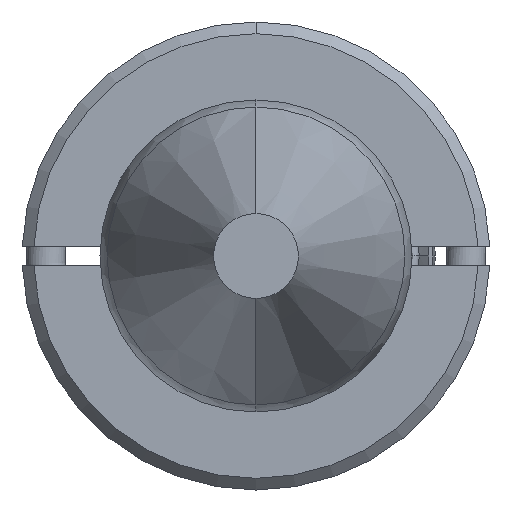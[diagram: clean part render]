
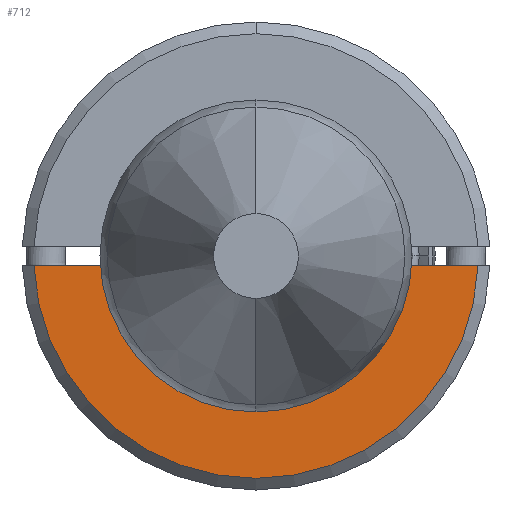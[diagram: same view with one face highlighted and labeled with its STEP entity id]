
A CAD part, front view. The second image highlights one B-rep face of the part: STEP entity #712.
In plain terms, the highlighted planar face has unit normal (0, -1, 0).
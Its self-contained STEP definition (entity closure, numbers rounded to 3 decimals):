
#11 = FACE_OUTER_BOUND ( 'NONE', #3713, .T. ) ;
#69 = ORIENTED_EDGE ( 'NONE', *, *, #91, .T. ) ;
#91 = EDGE_CURVE ( 'NONE', #2806, #2357, #1921, .T. ) ;
#178 = CARTESIAN_POINT ( 'NONE',  ( -6., -6., -0.25 ) ) ;
#205 = CARTESIAN_POINT ( 'NONE',  ( 0., -6., -3.2 ) ) ;
#348 = DIRECTION ( 'NONE',  ( 0., -1., 0. ) ) ;
#389 = ORIENTED_EDGE ( 'NONE', *, *, #900, .F. ) ;
#420 = DIRECTION ( 'NONE',  ( 0., 1., 0. ) ) ;
#638 = LINE ( 'NONE', #3803, #1190 ) ;
#659 = EDGE_CURVE ( 'NONE', #1588, #2463, #2780, .T. ) ;
#712 = ADVANCED_FACE ( 'NONE', ( #11 ), #3568, .T. ) ;
#748 = CARTESIAN_POINT ( 'NONE',  ( -5.695, -6., -0.25 ) ) ;
#900 = EDGE_CURVE ( 'NONE', #1111, #2463, #3023, .T. ) ;
#1035 = DIRECTION ( 'NONE',  ( 0., 0., -1. ) ) ;
#1111 = VERTEX_POINT ( 'NONE', #3103 ) ;
#1190 = VECTOR ( 'NONE', #3424, 1000. ) ;
#1338 = CARTESIAN_POINT ( 'NONE',  ( 0., -6., 0. ) ) ;
#1415 = CARTESIAN_POINT ( 'NONE',  ( -3.19, -6., -0.25 ) ) ;
#1443 = DIRECTION ( 'NONE',  ( 1., 0., 0. ) ) ;
#1499 = AXIS2_PLACEMENT_3D ( 'NONE', #1338, #420, #3837 ) ;
#1507 = AXIS2_PLACEMENT_3D ( 'NONE', #1651, #348, #1601 ) ;
#1531 = CARTESIAN_POINT ( 'NONE',  ( 5.695, -6., -0.25 ) ) ;
#1588 = VERTEX_POINT ( 'NONE', #748 ) ;
#1601 = DIRECTION ( 'NONE',  ( 0., 0., -1. ) ) ;
#1633 = ORIENTED_EDGE ( 'NONE', *, *, #2095, .T. ) ;
#1651 = CARTESIAN_POINT ( 'NONE',  ( -6., -6., 0. ) ) ;
#1921 = CIRCLE ( 'NONE', #2526, 3.2 ) ;
#1927 = DIRECTION ( 'NONE',  ( 0., -1., 0. ) ) ;
#2095 = EDGE_CURVE ( 'NONE', #1111, #2806, #2885, .T. ) ;
#2187 = AXIS2_PLACEMENT_3D ( 'NONE', #2598, #1927, #1035 ) ;
#2357 = VERTEX_POINT ( 'NONE', #1415 ) ;
#2359 = ORIENTED_EDGE ( 'NONE', *, *, #3451, .F. ) ;
#2463 = VERTEX_POINT ( 'NONE', #1531 ) ;
#2526 = AXIS2_PLACEMENT_3D ( 'NONE', #2626, #3226, #2588 ) ;
#2576 = VECTOR ( 'NONE', #1443, 1000. ) ;
#2588 = DIRECTION ( 'NONE',  ( 0., 0., -1. ) ) ;
#2598 = CARTESIAN_POINT ( 'NONE',  ( 0., -6., 0. ) ) ;
#2626 = CARTESIAN_POINT ( 'NONE',  ( 0., -6., 0. ) ) ;
#2780 = CIRCLE ( 'NONE', #2187, 5.7 ) ;
#2806 = VERTEX_POINT ( 'NONE', #205 ) ;
#2885 = CIRCLE ( 'NONE', #1499, 3.2 ) ;
#2940 = ORIENTED_EDGE ( 'NONE', *, *, #659, .T. ) ;
#3023 = LINE ( 'NONE', #178, #2576 ) ;
#3103 = CARTESIAN_POINT ( 'NONE',  ( 3.19, -6., -0.25 ) ) ;
#3226 = DIRECTION ( 'NONE',  ( 0., 1., 0. ) ) ;
#3424 = DIRECTION ( 'NONE',  ( 1., 0., 0. ) ) ;
#3451 = EDGE_CURVE ( 'NONE', #1588, #2357, #638, .T. ) ;
#3568 = PLANE ( 'NONE',  #1507 ) ;
#3713 = EDGE_LOOP ( 'NONE', ( #2359, #2940, #389, #1633, #69 ) ) ;
#3803 = CARTESIAN_POINT ( 'NONE',  ( -6., -6., -0.25 ) ) ;
#3837 = DIRECTION ( 'NONE',  ( 0., 0., -1. ) ) ;
